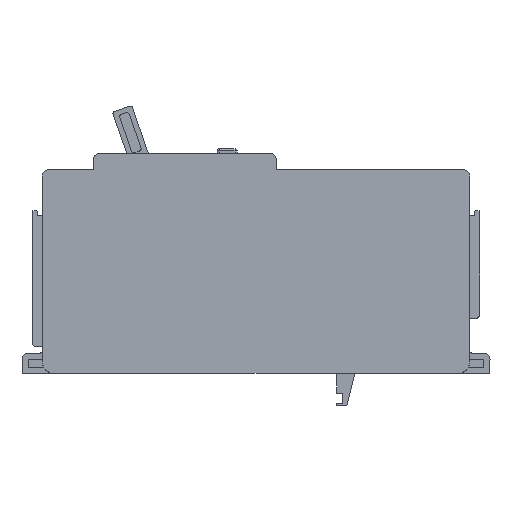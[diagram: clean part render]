
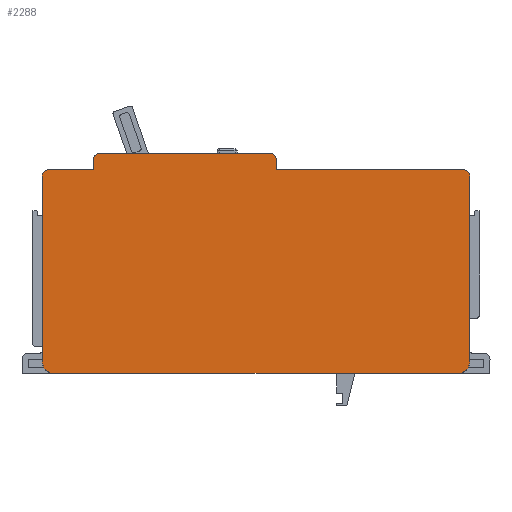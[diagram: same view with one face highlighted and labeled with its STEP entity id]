
A CAD part, left-side view. The second image highlights one B-rep face of the part: STEP entity #2288.
In plain terms, the highlighted planar face has unit normal (-1, 0, 0).
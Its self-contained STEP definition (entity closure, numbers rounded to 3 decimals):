
#154 = CARTESIAN_POINT ( 'NONE',  ( -10., 47.6, 2.8 ) ) ;
#230 = CARTESIAN_POINT ( 'NONE',  ( -10., -51.8, 2.8 ) ) ;
#251 = CARTESIAN_POINT ( 'NONE',  ( -10., -7.1, 52.5 ) ) ;
#340 = DIRECTION ( 'NONE',  ( 0., -1., 0. ) ) ;
#395 = VERTEX_POINT ( 'NONE', #2694 ) ;
#484 = LINE ( 'NONE', #914, #2856 ) ;
#607 = ORIENTED_EDGE ( 'NONE', *, *, #4311, .F. ) ;
#647 = CARTESIAN_POINT ( 'NONE',  ( -10., 36.4, 52.5 ) ) ;
#716 = CARTESIAN_POINT ( 'NONE',  ( -10., 48.9, 48.5 ) ) ;
#747 = ORIENTED_EDGE ( 'NONE', *, *, #1948, .F. ) ;
#784 = CARTESIAN_POINT ( 'NONE',  ( -10., -5.6, 52.5 ) ) ;
#830 = DIRECTION ( 'NONE',  ( 0., 0., -1. ) ) ;
#832 = CIRCLE ( 'NONE', #1173, 2.8 ) ;
#890 = AXIS2_PLACEMENT_3D ( 'NONE', #647, #5225, #4354 ) ;
#901 = VERTEX_POINT ( 'NONE', #5910 ) ;
#903 = LINE ( 'NONE', #3860, #4404 ) ;
#912 = FACE_OUTER_BOUND ( 'NONE', #4942, .T. ) ;
#914 = CARTESIAN_POINT ( 'NONE',  ( -10., 37.9, 0. ) ) ;
#916 = CARTESIAN_POINT ( 'NONE',  ( -10., -53.1, 50. ) ) ;
#995 = CIRCLE ( 'NONE', #5646, 2.8 ) ;
#1026 = CARTESIAN_POINT ( 'NONE',  ( -10., -54.6, 48.5 ) ) ;
#1062 = LINE ( 'NONE', #5106, #2216 ) ;
#1172 = DIRECTION ( 'NONE',  ( 1., 0., 0. ) ) ;
#1173 = AXIS2_PLACEMENT_3D ( 'NONE', #230, #1172, #3040 ) ;
#1230 = VERTEX_POINT ( 'NONE', #4370 ) ;
#1245 = CARTESIAN_POINT ( 'NONE',  ( -10., 0., 50. ) ) ;
#1259 = CARTESIAN_POINT ( 'NONE',  ( -10., 50.4, 2.8 ) ) ;
#1298 = DIRECTION ( 'NONE',  ( 0., 0., -1. ) ) ;
#1369 = DIRECTION ( 'NONE',  ( 0., 0., 1. ) ) ;
#1380 = AXIS2_PLACEMENT_3D ( 'NONE', #784, #5409, #1298 ) ;
#1438 = LINE ( 'NONE', #2511, #4342 ) ;
#1539 = VERTEX_POINT ( 'NONE', #4178 ) ;
#1659 = DIRECTION ( 'NONE',  ( 0., 0., -1. ) ) ;
#1711 = VERTEX_POINT ( 'NONE', #251 ) ;
#1766 = CARTESIAN_POINT ( 'NONE',  ( -10., 0., 0. ) ) ;
#1786 = ORIENTED_EDGE ( 'NONE', *, *, #3519, .F. ) ;
#1911 = VECTOR ( 'NONE', #2941, 1000. ) ;
#1924 = ORIENTED_EDGE ( 'NONE', *, *, #5845, .F. ) ;
#1934 = VECTOR ( 'NONE', #2017, 1000. ) ;
#1948 = EDGE_CURVE ( 'NONE', #395, #3145, #484, .T. ) ;
#2017 = DIRECTION ( 'NONE',  ( 0., 0., 1. ) ) ;
#2064 = DIRECTION ( 'NONE',  ( 0., 0., -1. ) ) ;
#2123 = AXIS2_PLACEMENT_3D ( 'NONE', #1766, #4925, #830 ) ;
#2144 = VECTOR ( 'NONE', #340, 1000. ) ;
#2193 = PLANE ( 'NONE',  #2123 ) ;
#2216 = VECTOR ( 'NONE', #2819, 1000. ) ;
#2245 = VERTEX_POINT ( 'NONE', #5283 ) ;
#2288 = ADVANCED_FACE ( 'NONE', ( #912 ), #2193, .F. ) ;
#2353 = CIRCLE ( 'NONE', #1380, 1.5 ) ;
#2396 = VERTEX_POINT ( 'NONE', #2405 ) ;
#2400 = VERTEX_POINT ( 'NONE', #4653 ) ;
#2405 = CARTESIAN_POINT ( 'NONE',  ( -10., 47.6, 0. ) ) ;
#2465 = ORIENTED_EDGE ( 'NONE', *, *, #3588, .F. ) ;
#2476 = DIRECTION ( 'NONE',  ( 0., 0., -1. ) ) ;
#2480 = EDGE_CURVE ( 'NONE', #3145, #2400, #4180, .T. ) ;
#2497 = DIRECTION ( 'NONE',  ( 1., 0., 0. ) ) ;
#2505 = EDGE_CURVE ( 'NONE', #5633, #4208, #903, .T. ) ;
#2508 = DIRECTION ( 'NONE',  ( 0., 0., -1. ) ) ;
#2511 = CARTESIAN_POINT ( 'NONE',  ( -10., 0., 0. ) ) ;
#2566 = EDGE_CURVE ( 'NONE', #5486, #1539, #4849, .T. ) ;
#2694 = CARTESIAN_POINT ( 'NONE',  ( -10., 37.9, 50. ) ) ;
#2819 = DIRECTION ( 'NONE',  ( 0., -1., 0. ) ) ;
#2831 = AXIS2_PLACEMENT_3D ( 'NONE', #5729, #2497, #2476 ) ;
#2856 = VECTOR ( 'NONE', #1369, 1000. ) ;
#2877 = ORIENTED_EDGE ( 'NONE', *, *, #5137, .F. ) ;
#2932 = CARTESIAN_POINT ( 'NONE',  ( -10., -7.1, 0. ) ) ;
#2934 = LINE ( 'NONE', #2932, #5418 ) ;
#2941 = DIRECTION ( 'NONE',  ( 0., -1., 0. ) ) ;
#2972 = DIRECTION ( 'NONE',  ( 0., 0., -1. ) ) ;
#3040 = DIRECTION ( 'NONE',  ( 0., 0., -1. ) ) ;
#3145 = VERTEX_POINT ( 'NONE', #3903 ) ;
#3347 = VERTEX_POINT ( 'NONE', #916 ) ;
#3519 = EDGE_CURVE ( 'NONE', #2396, #5486, #995, .T. ) ;
#3588 = EDGE_CURVE ( 'NONE', #2245, #2396, #1438, .T. ) ;
#3860 = CARTESIAN_POINT ( 'NONE',  ( -10., -54.6, 0. ) ) ;
#3903 = CARTESIAN_POINT ( 'NONE',  ( -10., 37.9, 52.5 ) ) ;
#3938 = ORIENTED_EDGE ( 'NONE', *, *, #2505, .F. ) ;
#3939 = ORIENTED_EDGE ( 'NONE', *, *, #5365, .F. ) ;
#3973 = DIRECTION ( 'NONE',  ( 1., 0., 0. ) ) ;
#4089 = EDGE_CURVE ( 'NONE', #2400, #5752, #1062, .T. ) ;
#4178 = CARTESIAN_POINT ( 'NONE',  ( -10., 50.4, 48.5 ) ) ;
#4180 = CIRCLE ( 'NONE', #890, 1.5 ) ;
#4208 = VERTEX_POINT ( 'NONE', #5636 ) ;
#4241 = DIRECTION ( 'NONE',  ( 1., 0., 0. ) ) ;
#4311 = EDGE_CURVE ( 'NONE', #901, #3347, #5495, .T. ) ;
#4330 = CARTESIAN_POINT ( 'NONE',  ( -10., -5.6, 54. ) ) ;
#4342 = VECTOR ( 'NONE', #5229, 1000. ) ;
#4354 = DIRECTION ( 'NONE',  ( 0., 0., -1. ) ) ;
#4370 = CARTESIAN_POINT ( 'NONE',  ( -10., 48.9, 50. ) ) ;
#4386 = AXIS2_PLACEMENT_3D ( 'NONE', #716, #3973, #1659 ) ;
#4404 = VECTOR ( 'NONE', #2508, 1000. ) ;
#4479 = LINE ( 'NONE', #5676, #1911 ) ;
#4653 = CARTESIAN_POINT ( 'NONE',  ( -10., 36.4, 54. ) ) ;
#4687 = EDGE_CURVE ( 'NONE', #3347, #5633, #5047, .T. ) ;
#4717 = EDGE_CURVE ( 'NONE', #1711, #901, #2934, .T. ) ;
#4725 = CARTESIAN_POINT ( 'NONE',  ( -10., 50.4, 0. ) ) ;
#4849 = LINE ( 'NONE', #4725, #1934 ) ;
#4925 = DIRECTION ( 'NONE',  ( 1., 0., 0. ) ) ;
#4941 = ORIENTED_EDGE ( 'NONE', *, *, #2566, .F. ) ;
#4942 = EDGE_LOOP ( 'NONE', ( #2465, #3939, #3938, #5506, #607, #5248, #2877, #5699, #5239, #747, #5760, #1924, #4941, #1786 ) ) ;
#5047 = CIRCLE ( 'NONE', #2831, 1.5 ) ;
#5106 = CARTESIAN_POINT ( 'NONE',  ( -10., 0., 54. ) ) ;
#5137 = EDGE_CURVE ( 'NONE', #5752, #1711, #2353, .T. ) ;
#5225 = DIRECTION ( 'NONE',  ( 1., 0., 0. ) ) ;
#5229 = DIRECTION ( 'NONE',  ( 0., 1., 0. ) ) ;
#5239 = ORIENTED_EDGE ( 'NONE', *, *, #2480, .F. ) ;
#5248 = ORIENTED_EDGE ( 'NONE', *, *, #4717, .F. ) ;
#5249 = CIRCLE ( 'NONE', #4386, 1.5 ) ;
#5283 = CARTESIAN_POINT ( 'NONE',  ( -10., -51.8, 0. ) ) ;
#5365 = EDGE_CURVE ( 'NONE', #4208, #2245, #832, .T. ) ;
#5409 = DIRECTION ( 'NONE',  ( 1., 0., 0. ) ) ;
#5418 = VECTOR ( 'NONE', #2064, 1000. ) ;
#5486 = VERTEX_POINT ( 'NONE', #1259 ) ;
#5495 = LINE ( 'NONE', #1245, #2144 ) ;
#5506 = ORIENTED_EDGE ( 'NONE', *, *, #4687, .F. ) ;
#5633 = VERTEX_POINT ( 'NONE', #1026 ) ;
#5636 = CARTESIAN_POINT ( 'NONE',  ( -10., -54.6, 2.8 ) ) ;
#5646 = AXIS2_PLACEMENT_3D ( 'NONE', #154, #4241, #2972 ) ;
#5676 = CARTESIAN_POINT ( 'NONE',  ( -10., 0., 50. ) ) ;
#5699 = ORIENTED_EDGE ( 'NONE', *, *, #4089, .F. ) ;
#5725 = EDGE_CURVE ( 'NONE', #1230, #395, #4479, .T. ) ;
#5729 = CARTESIAN_POINT ( 'NONE',  ( -10., -53.1, 48.5 ) ) ;
#5752 = VERTEX_POINT ( 'NONE', #4330 ) ;
#5760 = ORIENTED_EDGE ( 'NONE', *, *, #5725, .F. ) ;
#5845 = EDGE_CURVE ( 'NONE', #1539, #1230, #5249, .T. ) ;
#5910 = CARTESIAN_POINT ( 'NONE',  ( -10., -7.1, 50. ) ) ;
